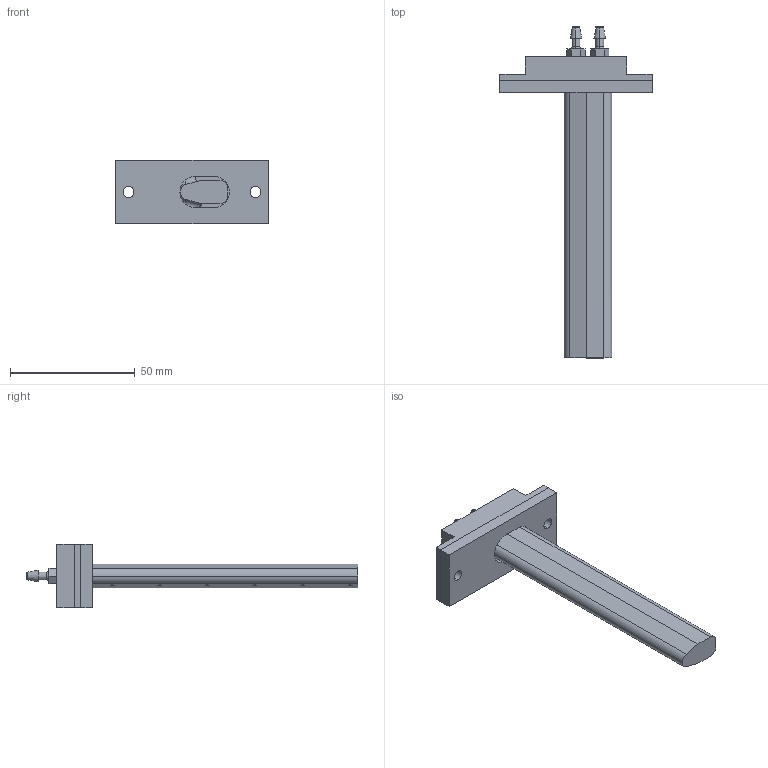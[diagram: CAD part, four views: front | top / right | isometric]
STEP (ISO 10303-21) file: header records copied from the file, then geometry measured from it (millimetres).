
FILE_DESCRIPTION (( 'STEP AP214' ), '1' );
FILE_NAME ('VELOCITY 4.0 IN RECTANGLE.STEP', '2026-03-04T14:46:51', ( '' ), ( '' ), 'SwSTEP 2.0', 'SolidWorks 2012', '' );
FILE_SCHEMA (( 'AUTOMOTIVE_DESIGN' ));
Length unit declared in the file: inch
Products named in the file (1): VELOCITY 4.0 IN RECTANGLE
Bounding box: 60.96 x 132.99 x 25.4 mm (x, y, z)
Surface area: 12961.8 mm2 (no closed solid volume)
Topology: 0 solids, 8 shells, 123 faces, 357 edges, 240 vertices
Faces by surface type: cylinder 59, plane 50, torus 10, cone 4
Entity records: 6021 total; most frequent: CARTESIAN_POINT 1218, DIRECTION 664, ORIENTED_EDGE 587, EDGE_CURVE 357, VERTEX_POINT 240, AXIS2_PLACEMENT_3D 232, VECTOR 200, LINE 200
